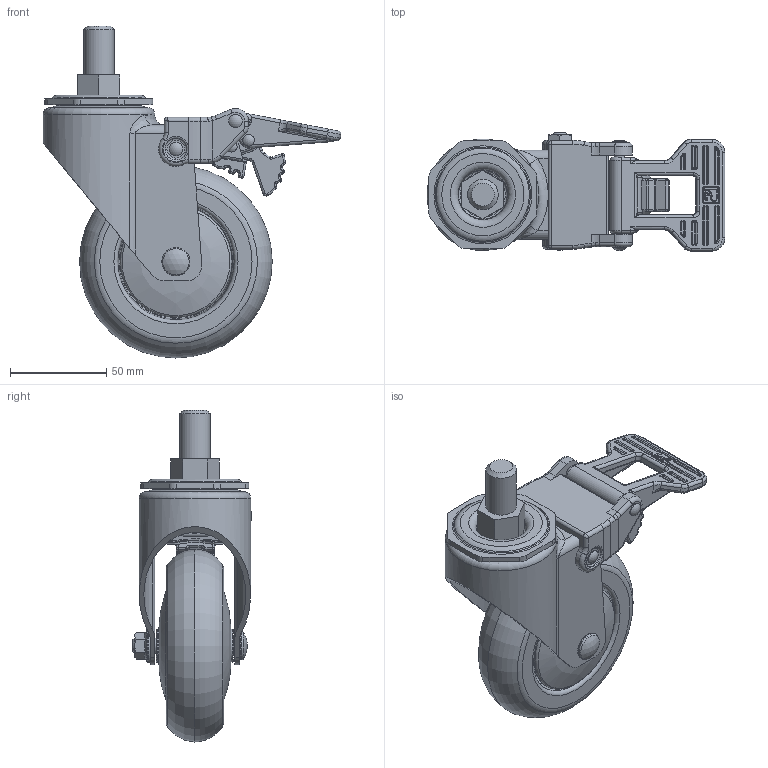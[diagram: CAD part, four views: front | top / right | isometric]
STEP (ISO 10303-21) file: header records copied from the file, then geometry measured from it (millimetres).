
FILE_DESCRIPTION(/* description */ (''),/* implementation_level */ '2;1');
FILE_NAME(/* name */ 'E:\홈피용도면\\X2\C2E0ADDCD648D398C774C9C0C6A9B3C4BA74\X0\\무소음캐스터\20160225-\X2\BB34C18CC74CCE90C2A4D130\X0\\PL-100-BSS.stp',/* time_stamp */ '2016-02-25T22:25:29+09:00',/* author */ ('장용하'),/* organization */ (''),/* preprocessor_version */ 'ST-DEVELOPER v15.6',/* originating_system */ 'Autodesk Inventor 2015',/* authorisation */ '');
FILE_SCHEMA (('AUTOMOTIVE_DESIGN { 1 0 10303 214 3 1 1 }'));
Length unit declared in the file: millimetre
Products named in the file (1): PL-100-BSS
Bounding box: 154.69 x 61.5 x 172.4 mm (x, y, z)
Volume: 305020.6 mm3; surface area: 112307.4 mm2
Topology: 2 solids, 2 shells, 1629 faces, 3960 edges, 2296 vertices
Faces by surface type: cylinder 664, plane 433, torus 249, bspline 116, sphere 115, cone 52
Full cylindrical faces by diameter (mm): 4 x2, 4.2 x8, 5 x2, 5.2 x7, 6 x4, 7 x4, 8 x2, 12.5 x1, 14.6 x1, 15.875 x1, 17 x1, 22 x2, 24.667 x2, 32.333 x2, 34 x1, 36 x1, 41 x1, 53 x1, 58 x1
Entity records: 54102 total; most frequent: CARTESIAN_POINT 16807, DIRECTION 8311, ORIENTED_EDGE 7380, EDGE_CURVE 3690, AXIS2_PLACEMENT_3D 3375, VERTEX_POINT 2276, EDGE_LOOP 1886, CIRCLE 1755
